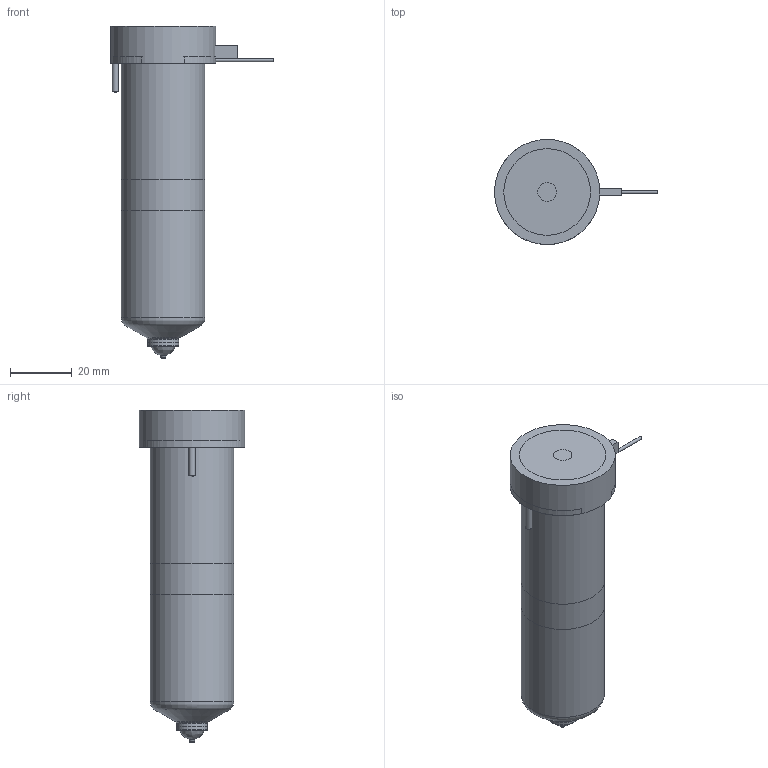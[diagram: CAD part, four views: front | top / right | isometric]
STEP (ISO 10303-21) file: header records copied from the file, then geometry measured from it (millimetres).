
FILE_DESCRIPTION(/* description */ (''),/* implementation_level */ '2;1');
FILE_NAME(/* name */ 'BXOV13095_200C_b',/* time_stamp */ '2007-01-18T08:47:41+13:00',/* author */ (''),/* organization */ (''),/* preprocessor_version */ 'ST-DEVELOPER v9',/* originating_system */ 'UGS - NX 4.0',/* authorisation */ '');
FILE_SCHEMA (('CONFIG_CONTROL_DESIGN'));
Length unit declared in the file: millimetre
Products named in the file (1): BXOV13095_200C_b
Bounding box: 52.65 x 34 x 107.25 mm (x, y, z)
Volume: 109834 mm3; surface area: 22815.5 mm2
Topology: 6 solids, 6 shells, 85 faces, 164 edges, 104 vertices
Faces by surface type: plane 36, cylinder 25, cone 13, torus 8, bspline 3
Full cylindrical faces by diameter (mm): 1 x3, 2 x3, 6 x1, 6.4 x1, 6.5 x1, 9.61 x1, 10.01 x2, 12.6 x1, 22.2 x1, 27 x2, 34 x1
Entity records: 2092 total; most frequent: CARTESIAN_POINT 447, DIRECTION 348, ORIENTED_EDGE 234, AXIS2_PLACEMENT_3D 156, EDGE_LOOP 136, EDGE_CURVE 117, VERTEX_POINT 96, ADVANCED_FACE 85
